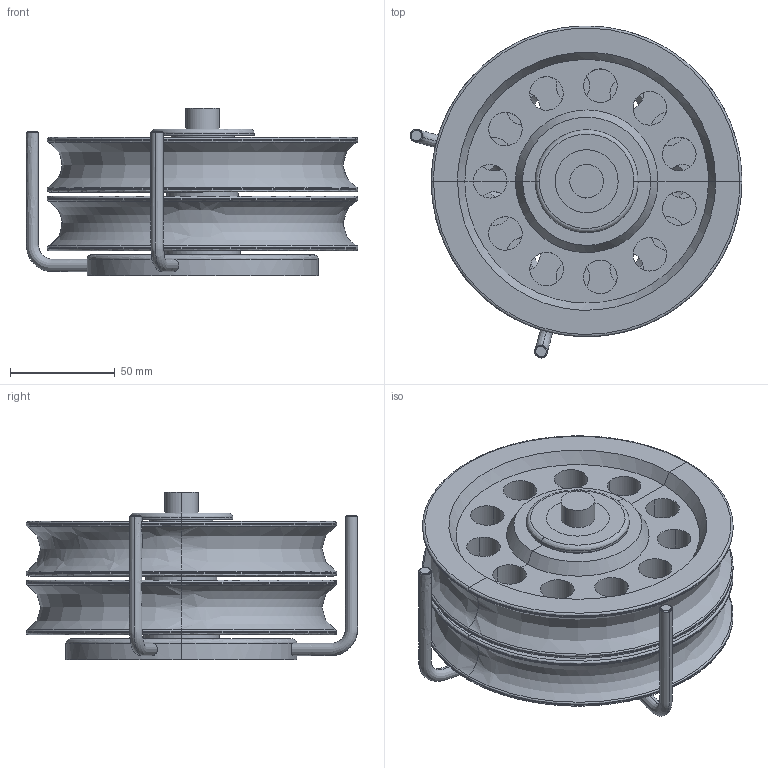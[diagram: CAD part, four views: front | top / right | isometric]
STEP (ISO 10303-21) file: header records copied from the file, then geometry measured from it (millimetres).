
FILE_DESCRIPTION(/* description */ (''),/* implementation_level */ '2;1');
FILE_NAME(/* name */ 'POULIE DOUBLE PLAT PONT D 150',/* time_stamp */ '2005-05-31T08:55:49+02:00',/* author */ (''),/* organization */ (''),/* preprocessor_version */ 'ST-DEVELOPER v8',/* originating_system */ '',/* authorisation */ '');
FILE_SCHEMA (('CONFIG_CONTROL_DESIGN'));
Length unit declared in the file: millimetre
Products named in the file (1): 1
Bounding box: 158.13 x 158.1 x 80 mm (x, y, z)
Volume: 551146 mm3; surface area: 173741.6 mm2
Topology: 14 solids, 15 shells, 318 faces, 700 edges, 399 vertices
Faces by surface type: bspline 318
Entity records: 13092 total; most frequent: CARTESIAN_POINT 9020, ORIENTED_EDGE 1395, EDGE_CURVE 698, VERTEX_POINT 412, EDGE_LOOP 382, ADVANCED_FACE 318, FACE_OUTER_BOUND 318, B_SPLINE_CURVE_WITH_KNOTS 318
